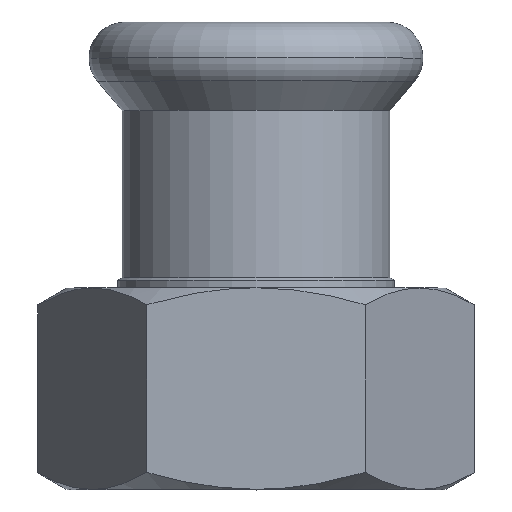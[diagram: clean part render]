
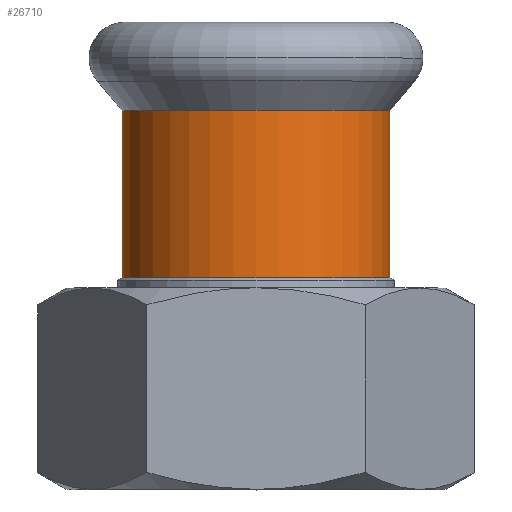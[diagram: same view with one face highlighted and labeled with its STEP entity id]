
A CAD part, top view. The second image highlights one B-rep face of the part: STEP entity #26710.
In plain terms, the highlighted cylindrical face has radius 10.625 mm (diameter 21.25 mm), a partial arc.
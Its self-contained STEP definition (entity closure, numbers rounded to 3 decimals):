
#26060=CARTESIAN_POINT('',(191.623,24.352,
0.));
#26070=VERTEX_POINT('',#26060);
#26250=CARTESIAN_POINT('',(191.623,3.102,
0.));
#26260=VERTEX_POINT('',#26250);
#26290=CARTESIAN_POINT('',(191.623,13.727,
0.));
#26300=DIRECTION('',(-1.,0.,0.));
#26310=DIRECTION('',(0.,-1.,0.));
#26320=AXIS2_PLACEMENT_3D('',#26290,#26300,#26310);
#26330=CIRCLE('',#26320,10.625);
#26390=CARTESIAN_POINT('',(198.389,13.727,
0.));
#26400=DIRECTION('',(1.,0.,0.));
#26410=DIRECTION('',(0.,-1.,0.));
#26420=AXIS2_PLACEMENT_3D('',#26390,#26400,#26410);
#26430=CYLINDRICAL_SURFACE('',#26420,10.625);
#26440=CARTESIAN_POINT('',(198.389,3.102,
0.));
#26450=DIRECTION('',(1.,0.,0.));
#26460=VECTOR('',#26450,1.);
#26470=LINE('',#26440,#26460);
#26480=CARTESIAN_POINT('',(204.891,3.102,
0.));
#26490=VERTEX_POINT('',#26480);
#26500=EDGE_CURVE('',#26260,#26490,#26470,.T.);
#26510=ORIENTED_EDGE('',*,*,#26500,.T.);
#26520=EDGE_CURVE('',#26260,#26070,#26330,.T.);
#26530=ORIENTED_EDGE('',*,*,#26520,.F.);
#26540=CARTESIAN_POINT('',(198.389,24.352,
0.));
#26550=DIRECTION('',(1.,0.,0.));
#26560=VECTOR('',#26550,1.);
#26570=LINE('',#26540,#26560);
#26580=CARTESIAN_POINT('',(204.891,24.352,
0.));
#26590=VERTEX_POINT('',#26580);
#26600=EDGE_CURVE('',#26070,#26590,#26570,.T.);
#26610=ORIENTED_EDGE('',*,*,#26600,.F.);
#26620=CARTESIAN_POINT('',(204.891,13.727,
0.));
#26630=DIRECTION('',(1.,0.,0.));
#26640=DIRECTION('',(0.,-1.,0.));
#26650=AXIS2_PLACEMENT_3D('',#26620,#26630,#26640);
#26660=CIRCLE('',#26650,10.625);
#26670=EDGE_CURVE('',#26590,#26490,#26660,.T.);
#26680=ORIENTED_EDGE('',*,*,#26670,.F.);
#26690=EDGE_LOOP('',(#26680,#26610,#26530,#26510));
#26700=FACE_OUTER_BOUND('',#26690,.T.);
#26710=ADVANCED_FACE('',(#26700),#26430,.T.);
